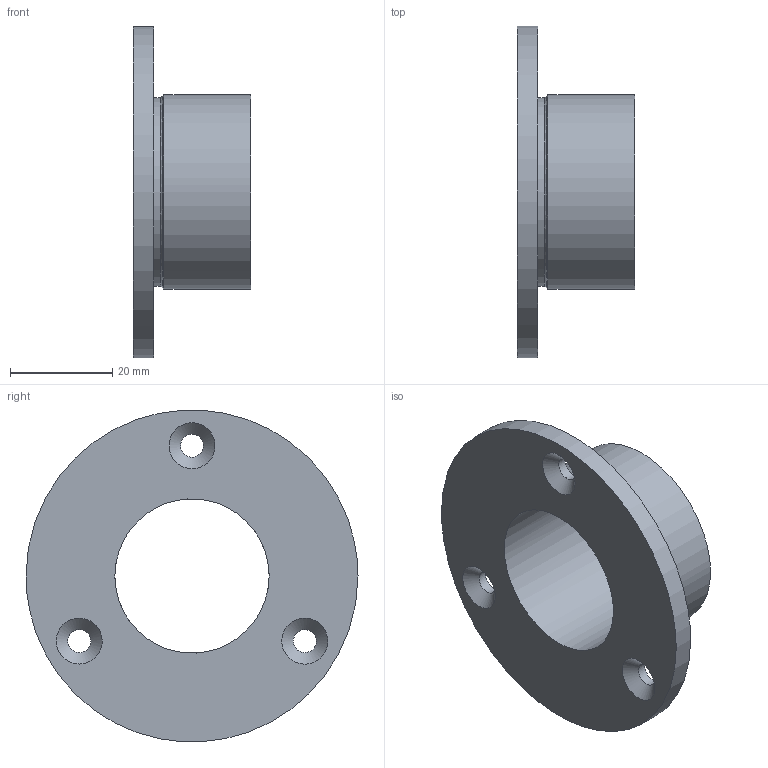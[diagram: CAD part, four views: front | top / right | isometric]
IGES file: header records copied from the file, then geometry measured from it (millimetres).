
Global section: file name: 04.20; native system: Autodesk Inventor 2014; preprocessor: unknown; author: APto; date: 20150514.091551; units: millimetre
Bounding box: 23 x 65 x 64.87 mm (x, y, z)
Volume: 17754.6 mm3; surface area: 10605.1 mm2
Topology: 1 solids, 1 shells, 20 faces, 65 edges, 49 vertices
Faces by surface type: bspline 20
